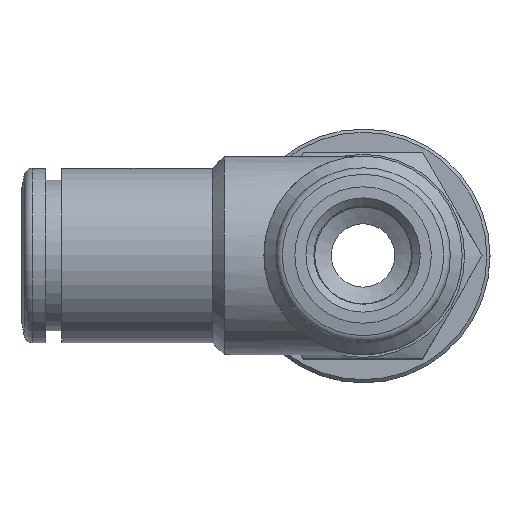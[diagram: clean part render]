
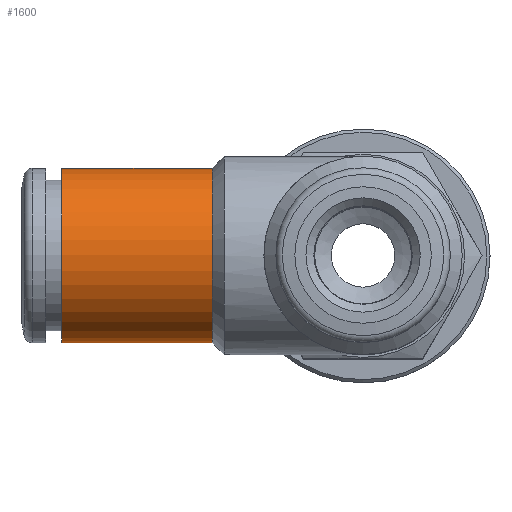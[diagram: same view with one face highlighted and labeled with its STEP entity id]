
A CAD part, top view. The second image highlights one B-rep face of the part: STEP entity #1600.
In plain terms, the highlighted cylindrical face has radius 5.5 mm (diameter 11 mm), a full revolution.
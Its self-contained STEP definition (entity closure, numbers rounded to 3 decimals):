
#1600=ADVANCED_FACE('', (#1610,#1620), #1630, .T.);
#5140=AXIS2_PLACEMENT_3D('Ax2Pl3d', #5150, #5160, #5170);
#6900=AXIS2_PLACEMENT_3D('Ax2Pl3d', #6910, #6920, #6930);
#6940=AXIS2_PLACEMENT_3D('Ax2Pl3d', #6950, #6960, #6970);
#5150=CARTESIAN_POINT('HicPkt', (9.229,10.025,
29.271));
#19520=CARTESIAN_POINT('', (9.229,15.525,29.271));
#6910=CARTESIAN_POINT('HicPkt', (18.729,10.025,
29.271));
#19740=CARTESIAN_POINT('', (18.729,10.025,34.771));
#6950=CARTESIAN_POINT('HicPkt', (9.229,10.025,
29.271));
#20670=CIRCLE('Circle', #5140, 5.5);
#20870=CIRCLE('Circle', #6900, 5.5);
#1630=CYLINDRICAL_SURFACE('Zyl', #6940, 5.5);
#5160=DIRECTION('Axis', (1.,0.,0.));
#5170=DIRECTION('RefDirection', (0.,0.,-1.));
#6920=DIRECTION('Axis', (1.,0.,0.));
#6930=DIRECTION('RefDirection', (0.,0.,-1.));
#6960=DIRECTION('Axis', (1.,0.,0.));
#6970=DIRECTION('RefDirection', (0.,0.,-1.));
#25350=EDGE_CURVE('', #25360, #25360, #20670, .T.);
#25810=EDGE_CURVE('', #25820, #25820, #20870, .T.);
#28790=EDGE_LOOP('Edge_loop', (#28800));
#28810=EDGE_LOOP('Edge_loop', (#28820));
#1620=FACE_BOUND('', #28810, .T.);
#1610=FACE_OUTER_BOUND('Face_outer_bound', #28790, .T.);
#28800=ORIENTED_EDGE('', *, *, #25810, .F.);
#28820=ORIENTED_EDGE('', *, *, #25350, .T.);
#25360=VERTEX_POINT('', #19520);
#25820=VERTEX_POINT('', #19740);
